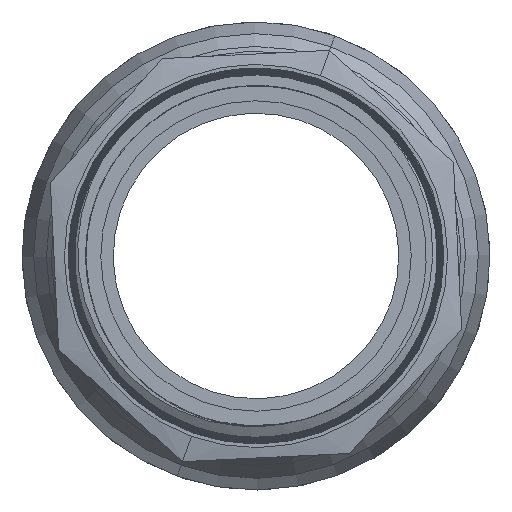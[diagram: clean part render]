
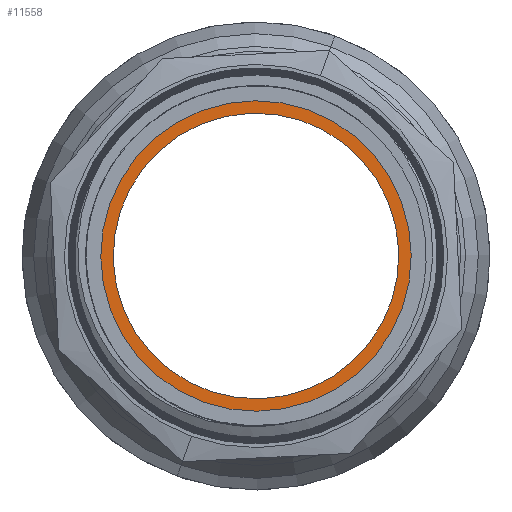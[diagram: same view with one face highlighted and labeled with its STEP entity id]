
A CAD part, left-side view. The second image highlights one B-rep face of the part: STEP entity #11558.
In plain terms, the highlighted planar face has unit normal (-1, 0, 0).
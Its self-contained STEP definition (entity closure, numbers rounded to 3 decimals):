
#1510 = ORIENTED_EDGE ( 'NONE', *, *, #11755, .T. ) ;
#1511 = ORIENTED_EDGE ( 'NONE', *, *, #11747, .T. ) ;
#1512 = ORIENTED_EDGE ( 'NONE', *, *, #11740, .F. ) ;
#1513 = ORIENTED_EDGE ( 'NONE', *, *, #11756, .F. ) ;
#2475 = VERTEX_POINT ( 'NONE', #8755 ) ;
#2479 = VERTEX_POINT ( 'NONE', #8759 ) ;
#2486 = VERTEX_POINT ( 'NONE', #8766 ) ;
#2492 = VERTEX_POINT ( 'NONE', #8772 ) ;
#4599 = CARTESIAN_POINT ( 'NONE',  ( -774.548, 0., 71.953 ) ) ;
#4600 = DIRECTION ( 'NONE',  ( -1., 0., 0. ) ) ;
#4601 = DIRECTION ( 'NONE',  ( 0., -0.613, 0.79 ) ) ;
#4621 = CARTESIAN_POINT ( 'NONE',  ( -774.548, 0., 71.953 ) ) ;
#4622 = DIRECTION ( 'NONE',  ( -1., 0., 0. ) ) ;
#4623 = DIRECTION ( 'NONE',  ( 0., -0.613, 0.79 ) ) ;
#4624 = CARTESIAN_POINT ( 'NONE',  ( -774.548, 0., 71.953 ) ) ;
#4625 = DIRECTION ( 'NONE',  ( -1., 0., 0. ) ) ;
#4626 = DIRECTION ( 'NONE',  ( 0., -0.613, 0.79 ) ) ;
#8755 = CARTESIAN_POINT ( 'NONE',  ( -774.548, 10.115, 58.917 ) ) ;
#8759 = CARTESIAN_POINT ( 'NONE',  ( -774.548, 7.05, 62.867 ) ) ;
#8766 = CARTESIAN_POINT ( 'NONE',  ( -774.548, -7.05, 81.038 ) ) ;
#8772 = CARTESIAN_POINT ( 'NONE',  ( -774.548, -10.115, 84.989 ) ) ;
#11432 = CARTESIAN_POINT ( 'NONE',  ( -774.548, 0., 71.953 ) ) ;
#11433 = DIRECTION ( 'NONE',  ( -1., 0., 0. ) ) ;
#11434 = DIRECTION ( 'NONE',  ( 0., -0.613, 0.79 ) ) ;
#11558 = ADVANCED_FACE ( 'NONE', ( #13000, #13001 ), #13002, .T. ) ;
#11740 = EDGE_CURVE ( 'NONE', #2479, #2486, #14478, .T. ) ;
#11747 = EDGE_CURVE ( 'NONE', #2492, #2475, #14467, .T. ) ;
#11755 = EDGE_CURVE ( 'NONE', #2475, #2492, #14458, .T. ) ;
#11756 = EDGE_CURVE ( 'NONE', #2486, #2479, #14456, .T. ) ;
#12996 = CARTESIAN_POINT ( 'NONE',  ( -774.548, 0., 71.953 ) ) ;
#13000 = FACE_OUTER_BOUND ( 'NONE', #17193, .T. ) ;
#13001 = FACE_BOUND ( 'NONE', #17202, .T. ) ;
#13002 = PLANE ( 'NONE',  #14670 ) ;
#13004 = DIRECTION ( 'NONE',  ( -1., 0., 0. ) ) ;
#13005 = DIRECTION ( 'NONE',  ( 0., -0.613, 0.79 ) ) ;
#14453 = AXIS2_PLACEMENT_3D ( 'NONE', #4624, #4625, #4626 ) ;
#14455 = AXIS2_PLACEMENT_3D ( 'NONE', #4621, #4622, #4623 ) ;
#14456 = CIRCLE ( 'NONE', #14453, 11.5 ) ;
#14458 = CIRCLE ( 'NONE', #14455, 16.5 ) ;
#14466 = AXIS2_PLACEMENT_3D ( 'NONE', #4599, #4600, #4601 ) ;
#14467 = CIRCLE ( 'NONE', #14466, 16.5 ) ;
#14475 = AXIS2_PLACEMENT_3D ( 'NONE', #11432, #11433, #11434 ) ;
#14478 = CIRCLE ( 'NONE', #14475, 11.5 ) ;
#14670 = AXIS2_PLACEMENT_3D ( 'NONE', #12996, #13004, #13005 ) ;
#17193 = EDGE_LOOP ( 'NONE', ( #1510, #1511 ) ) ;
#17202 = EDGE_LOOP ( 'NONE', ( #1512, #1513 ) ) ;
